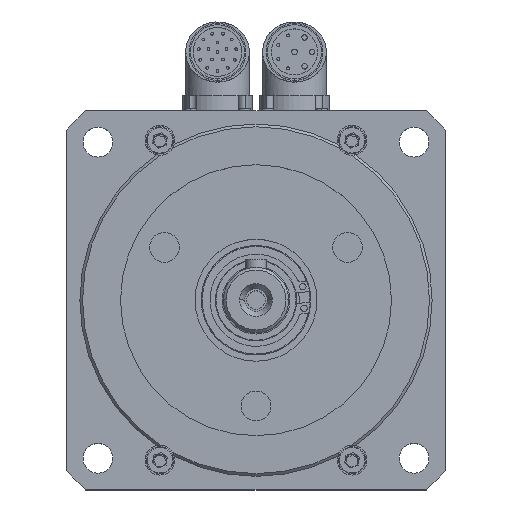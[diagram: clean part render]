
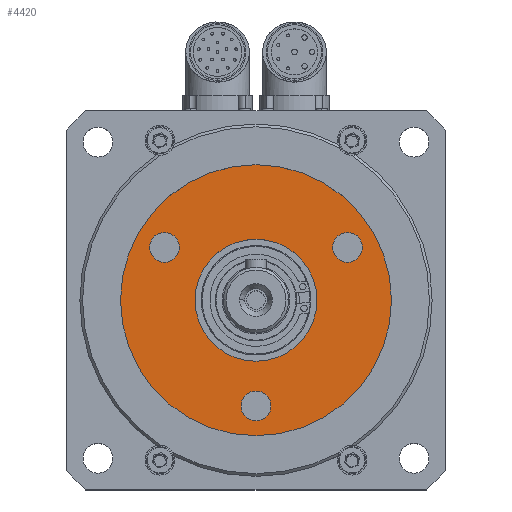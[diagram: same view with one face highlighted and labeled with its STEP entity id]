
A CAD part, top view. The second image highlights one B-rep face of the part: STEP entity #4420.
In plain terms, the highlighted planar face has unit normal (0, 0, 1).
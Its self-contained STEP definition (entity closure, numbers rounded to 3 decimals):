
#105 = PLANE ( 'NONE',  #3380 ) ;
#113 = CARTESIAN_POINT ( 'NONE',  ( 0., 50., 21.5 ) ) ;
#115 = DIRECTION ( 'NONE',  ( 0., 0., 1. ) ) ;
#116 = DIRECTION ( 'NONE',  ( 1., 0., 0. ) ) ;
#692 = VERTEX_POINT ( 'NONE', #15746 ) ;
#744 = VERTEX_POINT ( 'NONE', #15460 ) ;
#820 = VERTEX_POINT ( 'NONE', #15431 ) ;
#832 = VERTEX_POINT ( 'NONE', #15549 ) ;
#858 = VERTEX_POINT ( 'NONE', #15463 ) ;
#895 = VERTEX_POINT ( 'NONE', #15611 ) ;
#906 = VERTEX_POINT ( 'NONE', #15735 ) ;
#968 = VERTEX_POINT ( 'NONE', #15707 ) ;
#971 = VERTEX_POINT ( 'NONE', #15685 ) ;
#1004 = VERTEX_POINT ( 'NONE', #15591 ) ;
#1181 = ORIENTED_EDGE ( 'NONE', *, *, #12029, .T. ) ;
#1187 = ORIENTED_EDGE ( 'NONE', *, *, #6209, .F. ) ;
#1188 = ORIENTED_EDGE ( 'NONE', *, *, #11100, .F. ) ;
#1195 = ORIENTED_EDGE ( 'NONE', *, *, #10827, .F. ) ;
#1201 = ORIENTED_EDGE ( 'NONE', *, *, #6160, .T. ) ;
#1203 = ORIENTED_EDGE ( 'NONE', *, *, #11639, .F. ) ;
#1258 = ORIENTED_EDGE ( 'NONE', *, *, #10771, .F. ) ;
#1634 = CIRCLE ( 'NONE', #3789, 22.5 ) ;
#2763 = CARTESIAN_POINT ( 'NONE',  ( 0., 0., 21.5 ) ) ;
#2781 = DIRECTION ( 'NONE',  ( 0., 0., 1. ) ) ;
#2782 = DIRECTION ( 'NONE',  ( 1., 0., 0. ) ) ;
#3380 = AXIS2_PLACEMENT_3D ( 'NONE', #113, #115, #116 ) ;
#3391 = AXIS2_PLACEMENT_3D ( 'NONE', #9608, #9609, #9610 ) ;
#3416 = AXIS2_PLACEMENT_3D ( 'NONE', #2763, #2781, #2782 ) ;
#3704 = AXIS2_PLACEMENT_3D ( 'NONE', #8259, #8260, #8261 ) ;
#3789 = AXIS2_PLACEMENT_3D ( 'NONE', #7420, #7423, #7424 ) ;
#3798 = AXIS2_PLACEMENT_3D ( 'NONE', #5497, #5498, #5499 ) ;
#3822 = AXIS2_PLACEMENT_3D ( 'NONE', #12702, #12721, #12722 ) ;
#3987 = AXIS2_PLACEMENT_3D ( 'NONE', #12888, #12891, #12892 ) ;
#4122 = AXIS2_PLACEMENT_3D ( 'NONE', #9528, #9529, #9530 ) ;
#4152 = AXIS2_PLACEMENT_3D ( 'NONE', #5033, #5040, #5041 ) ;
#4194 = AXIS2_PLACEMENT_3D ( 'NONE', #9737, #9738, #9739 ) ;
#4420 = ADVANCED_FACE ( 'NONE', ( #9939, #9943, #9945, #9947, #9941 ), #105, .T. ) ;
#4467 = CIRCLE ( 'NONE', #3391, 5.5 ) ;
#4508 = CIRCLE ( 'NONE', #4194, 50. ) ;
#4575 = CIRCLE ( 'NONE', #3704, 5.5 ) ;
#5033 = CARTESIAN_POINT ( 'NONE',  ( 0., -39., 21.5 ) ) ;
#5040 = DIRECTION ( 'NONE',  ( 0., 0., 1. ) ) ;
#5041 = DIRECTION ( 'NONE',  ( 1., 0., 0. ) ) ;
#5497 = CARTESIAN_POINT ( 'NONE',  ( 33.775, 19.5, 21.5 ) ) ;
#5498 = DIRECTION ( 'NONE',  ( 0., 0., 1. ) ) ;
#5499 = DIRECTION ( 'NONE',  ( 1., 0., 0. ) ) ;
#6100 = EDGE_CURVE ( 'NONE', #832, #1004, #10114, .T. ) ;
#6130 = EDGE_CURVE ( 'NONE', #858, #968, #4467, .T. ) ;
#6160 = EDGE_CURVE ( 'NONE', #692, #820, #4508, .T. ) ;
#6209 = EDGE_CURVE ( 'NONE', #906, #744, #4575, .T. ) ;
#6505 = CIRCLE ( 'NONE', #3798, 5.5 ) ;
#7420 = CARTESIAN_POINT ( 'NONE',  ( 0., 0., 21.5 ) ) ;
#7423 = DIRECTION ( 'NONE',  ( 0., 0., 1. ) ) ;
#7424 = DIRECTION ( 'NONE',  ( 1., 0., 0. ) ) ;
#8259 = CARTESIAN_POINT ( 'NONE',  ( 33.775, 19.5, 21.5 ) ) ;
#8260 = DIRECTION ( 'NONE',  ( 0., 0., 1. ) ) ;
#8261 = DIRECTION ( 'NONE',  ( 1., 0., 0. ) ) ;
#8968 = CIRCLE ( 'NONE', #3822, 5.5 ) ;
#9041 = CIRCLE ( 'NONE', #3987, 22.5 ) ;
#9136 = EDGE_LOOP ( 'NONE', ( #1187, #1188 ) ) ;
#9138 = EDGE_LOOP ( 'NONE', ( #12076, #1258 ) ) ;
#9388 = EDGE_LOOP ( 'NONE', ( #1201, #1181 ) ) ;
#9528 = CARTESIAN_POINT ( 'NONE',  ( 0., -39., 21.5 ) ) ;
#9529 = DIRECTION ( 'NONE',  ( 0., 0., 1. ) ) ;
#9530 = DIRECTION ( 'NONE',  ( 1., 0., 0. ) ) ;
#9608 = CARTESIAN_POINT ( 'NONE',  ( -33.775, 19.5, 21.5 ) ) ;
#9609 = DIRECTION ( 'NONE',  ( 0., 0., 1. ) ) ;
#9610 = DIRECTION ( 'NONE',  ( 1., 0., 0. ) ) ;
#9737 = CARTESIAN_POINT ( 'NONE',  ( 0., 0., 21.5 ) ) ;
#9738 = DIRECTION ( 'NONE',  ( 0., 0., 1. ) ) ;
#9739 = DIRECTION ( 'NONE',  ( 1., 0., 0. ) ) ;
#9939 = FACE_BOUND ( 'NONE', #9138, .T. ) ;
#9941 = FACE_BOUND ( 'NONE', #13844, .T. ) ;
#9943 = FACE_BOUND ( 'NONE', #9136, .T. ) ;
#9945 = FACE_BOUND ( 'NONE', #13875, .T. ) ;
#9947 = FACE_OUTER_BOUND ( 'NONE', #9388, .T. ) ;
#10114 = CIRCLE ( 'NONE', #4122, 5.5 ) ;
#10673 = CIRCLE ( 'NONE', #3416, 50. ) ;
#10771 = EDGE_CURVE ( 'NONE', #968, #858, #8968, .T. ) ;
#10827 = EDGE_CURVE ( 'NONE', #971, #895, #9041, .T. ) ;
#10975 = EDGE_CURVE ( 'NONE', #1004, #832, #13597, .T. ) ;
#11100 = EDGE_CURVE ( 'NONE', #744, #906, #6505, .T. ) ;
#11639 = EDGE_CURVE ( 'NONE', #895, #971, #1634, .T. ) ;
#12029 = EDGE_CURVE ( 'NONE', #820, #692, #10673, .T. ) ;
#12066 = ORIENTED_EDGE ( 'NONE', *, *, #6100, .F. ) ;
#12072 = ORIENTED_EDGE ( 'NONE', *, *, #10975, .F. ) ;
#12076 = ORIENTED_EDGE ( 'NONE', *, *, #6130, .F. ) ;
#12702 = CARTESIAN_POINT ( 'NONE',  ( -33.775, 19.5, 21.5 ) ) ;
#12721 = DIRECTION ( 'NONE',  ( 0., 0., 1. ) ) ;
#12722 = DIRECTION ( 'NONE',  ( 1., 0., 0. ) ) ;
#12888 = CARTESIAN_POINT ( 'NONE',  ( 0., 0., 21.5 ) ) ;
#12891 = DIRECTION ( 'NONE',  ( 0., 0., 1. ) ) ;
#12892 = DIRECTION ( 'NONE',  ( 1., 0., 0. ) ) ;
#13597 = CIRCLE ( 'NONE', #4152, 5.5 ) ;
#13844 = EDGE_LOOP ( 'NONE', ( #1195, #1203 ) ) ;
#13875 = EDGE_LOOP ( 'NONE', ( #12066, #12072 ) ) ;
#15431 = CARTESIAN_POINT ( 'NONE',  ( -50., 0., 21.5 ) ) ;
#15460 = CARTESIAN_POINT ( 'NONE',  ( 28.275, 19.5, 21.5 ) ) ;
#15463 = CARTESIAN_POINT ( 'NONE',  ( -28.275, 19.5, 21.5 ) ) ;
#15549 = CARTESIAN_POINT ( 'NONE',  ( 5.5, -39., 21.5 ) ) ;
#15591 = CARTESIAN_POINT ( 'NONE',  ( -5.5, -39., 21.5 ) ) ;
#15611 = CARTESIAN_POINT ( 'NONE',  ( -22.5, 0., 21.5 ) ) ;
#15685 = CARTESIAN_POINT ( 'NONE',  ( 22.5, 0., 21.5 ) ) ;
#15707 = CARTESIAN_POINT ( 'NONE',  ( -39.275, 19.5, 21.5 ) ) ;
#15735 = CARTESIAN_POINT ( 'NONE',  ( 39.275, 19.5, 21.5 ) ) ;
#15746 = CARTESIAN_POINT ( 'NONE',  ( 50., 0., 21.5 ) ) ;
